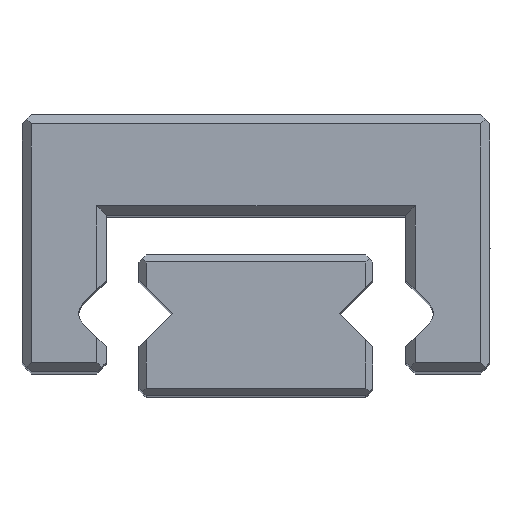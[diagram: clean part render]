
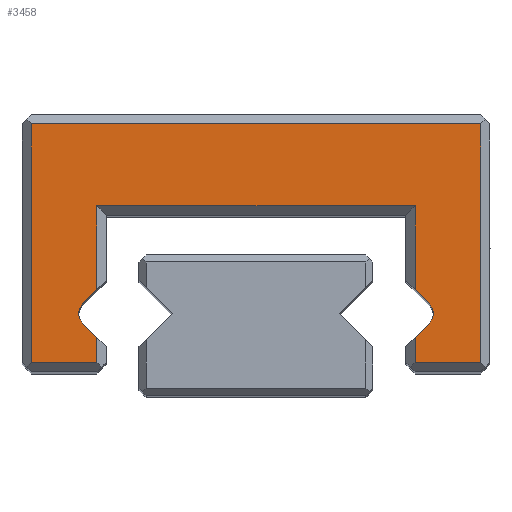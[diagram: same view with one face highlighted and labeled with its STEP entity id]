
A CAD part, top view. The second image highlights one B-rep face of the part: STEP entity #3458.
In plain terms, the highlighted planar face has unit normal (0, 0, 1).
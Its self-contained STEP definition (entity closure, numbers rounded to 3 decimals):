
#604 = VECTOR ( 'NONE', #1005, 1000. ) ;
#605 = VECTOR ( 'NONE', #1008, 1000. ) ;
#606 = VECTOR ( 'NONE', #1011, 1000. ) ;
#607 = VECTOR ( 'NONE', #1014, 1000. ) ;
#608 = VECTOR ( 'NONE', #1017, 1000. ) ;
#609 = VECTOR ( 'NONE', #1020, 1000. ) ;
#610 = VECTOR ( 'NONE', #1023, 1000. ) ;
#611 = VECTOR ( 'NONE', #1026, 1000. ) ;
#612 = VECTOR ( 'NONE', #1029, 1000. ) ;
#613 = VECTOR ( 'NONE', #1032, 1000. ) ;
#1003 = LINE ( 'NONE', #1004, #604 ) ;
#1004 = CARTESIAN_POINT ( 'NONE',  ( 3.4, 0.2, 12.5 ) ) ;
#1005 = DIRECTION ( 'NONE',  ( 0., -1., 0. ) ) ;
#1006 = LINE ( 'NONE', #1007, #605 ) ;
#1007 = CARTESIAN_POINT ( 'NONE',  ( 4.8, 0.2, 12.5 ) ) ;
#1008 = DIRECTION ( 'NONE',  ( 1., 0., 0. ) ) ;
#1009 = LINE ( 'NONE', #1010, #606 ) ;
#1010 = CARTESIAN_POINT ( 'NONE',  ( 4.8, 5.3, 12.5 ) ) ;
#1011 = DIRECTION ( 'NONE',  ( 0., 1., 0. ) ) ;
#1012 = LINE ( 'NONE', #1013, #607 ) ;
#1013 = CARTESIAN_POINT ( 'NONE',  ( -4.8, 5.3, 12.5 ) ) ;
#1014 = DIRECTION ( 'NONE',  ( -1., 0., 0. ) ) ;
#1015 = LINE ( 'NONE', #1016, #608 ) ;
#1016 = CARTESIAN_POINT ( 'NONE',  ( -4.8, 0.2, 12.5 ) ) ;
#1017 = DIRECTION ( 'NONE',  ( 0., -1., 0. ) ) ;
#1018 = LINE ( 'NONE', #1019, #609 ) ;
#1019 = CARTESIAN_POINT ( 'NONE',  ( -3.4, 0.2, 12.5 ) ) ;
#1020 = DIRECTION ( 'NONE',  ( 1., 0., 0. ) ) ;
#1021 = LINE ( 'NONE', #1022, #610 ) ;
#1022 = CARTESIAN_POINT ( 'NONE',  ( -3.4, 0.54, 12.5 ) ) ;
#1023 = DIRECTION ( 'NONE',  ( 0., 1., 0. ) ) ;
#1024 = LINE ( 'NONE', #1025, #611 ) ;
#1025 = CARTESIAN_POINT ( 'NONE',  ( -3.4, 3.35, 12.5 ) ) ;
#1026 = DIRECTION ( 'NONE',  ( 0., 1., 0. ) ) ;
#1027 = LINE ( 'NONE', #1028, #612 ) ;
#1028 = CARTESIAN_POINT ( 'NONE',  ( 3.2, 3.55, 12.5 ) ) ;
#1029 = DIRECTION ( 'NONE',  ( 1., 0., 0. ) ) ;
#1030 = LINE ( 'NONE', #1031, #613 ) ;
#1031 = CARTESIAN_POINT ( 'NONE',  ( 3.4, 1.96, 12.5 ) ) ;
#1032 = DIRECTION ( 'NONE',  ( 0., -1., 0. ) ) ;
#3458 = ADVANCED_FACE ( 'NONE', ( #9036 ), #9030, .T. ) ;
#3499 = EDGE_CURVE ( 'NONE', #11159, #11230, #3551, .T. ) ;
#3501 = EDGE_CURVE ( 'NONE', #11307, #11159, #9240, .T. ) ;
#3550 = VECTOR ( 'NONE', #9248, 1000. ) ;
#3551 = CIRCLE ( 'NONE', #3552, 0.3 ) ;
#3552 = AXIS2_PLACEMENT_3D ( 'NONE', #9242, #9243, #9244 ) ;
#3612 = CIRCLE ( 'NONE', #3614, 0.3 ) ;
#3614 = AXIS2_PLACEMENT_3D ( 'NONE', #4851, #4852, #4853 ) ;
#4157 = CIRCLE ( 'NONE', #4161, 0.3 ) ;
#4161 = AXIS2_PLACEMENT_3D ( 'NONE', #12275, #12276, #12277 ) ;
#4166 = VECTOR ( 'NONE', #12260, 1000. ) ;
#4167 = VECTOR ( 'NONE', #12288, 1000. ) ;
#4178 = VECTOR ( 'NONE', #12316, 1000. ) ;
#4653 = AXIS2_PLACEMENT_3D ( 'NONE', #9032, #9038, #9039 ) ;
#4851 = CARTESIAN_POINT ( 'NONE',  ( -3.49, 1.25, 12.5 ) ) ;
#4852 = DIRECTION ( 'NONE',  ( 0., 0., -1. ) ) ;
#4853 = DIRECTION ( 'NONE',  ( 1., 0., 0. ) ) ;
#5800 = EDGE_LOOP ( 'NONE', ( #7242, #7243, #7244, #7245, #7246, #7247, #7248, #7249, #7250, #7251, #7252, #7253, #7254, #7255, #7256, #7257, #7258 ) ) ;
#7242 = ORIENTED_EDGE ( 'NONE', *, *, #11445, .T. ) ;
#7243 = ORIENTED_EDGE ( 'NONE', *, *, #11591, .T. ) ;
#7244 = ORIENTED_EDGE ( 'NONE', *, *, #11592, .T. ) ;
#7245 = ORIENTED_EDGE ( 'NONE', *, *, #11593, .T. ) ;
#7246 = ORIENTED_EDGE ( 'NONE', *, *, #11594, .T. ) ;
#7247 = ORIENTED_EDGE ( 'NONE', *, *, #11595, .T. ) ;
#7248 = ORIENTED_EDGE ( 'NONE', *, *, #11596, .T. ) ;
#7249 = ORIENTED_EDGE ( 'NONE', *, *, #11597, .T. ) ;
#7250 = ORIENTED_EDGE ( 'NONE', *, *, #3501, .T. ) ;
#7251 = ORIENTED_EDGE ( 'NONE', *, *, #3499, .T. ) ;
#7252 = ORIENTED_EDGE ( 'NONE', *, *, #8296, .T. ) ;
#7253 = ORIENTED_EDGE ( 'NONE', *, *, #11463, .T. ) ;
#7254 = ORIENTED_EDGE ( 'NONE', *, *, #11598, .T. ) ;
#7255 = ORIENTED_EDGE ( 'NONE', *, *, #11599, .T. ) ;
#7256 = ORIENTED_EDGE ( 'NONE', *, *, #11600, .T. ) ;
#7257 = ORIENTED_EDGE ( 'NONE', *, *, #11454, .T. ) ;
#7258 = ORIENTED_EDGE ( 'NONE', *, *, #11450, .T. ) ;
#8296 = EDGE_CURVE ( 'NONE', #11230, #11245, #3612, .T. ) ;
#9030 = PLANE ( 'NONE',  #4653 ) ;
#9032 = CARTESIAN_POINT ( 'NONE',  ( -3.49, 1.25, 12.5 ) ) ;
#9036 = FACE_OUTER_BOUND ( 'NONE', #5800, .T. ) ;
#9038 = DIRECTION ( 'NONE',  ( 0., 0., 1. ) ) ;
#9039 = DIRECTION ( 'NONE',  ( 1., 0., 0. ) ) ;
#9240 = LINE ( 'NONE', #9247, #3550 ) ;
#9242 = CARTESIAN_POINT ( 'NONE',  ( -3.49, 1.25, 12.5 ) ) ;
#9243 = DIRECTION ( 'NONE',  ( 0., 0., -1. ) ) ;
#9244 = DIRECTION ( 'NONE',  ( 1., 0., 0. ) ) ;
#9247 = CARTESIAN_POINT ( 'NONE',  ( -3.2, 0.54, 12.5 ) ) ;
#9248 = DIRECTION ( 'NONE',  ( -0.71, 0.704, 0. ) ) ;
#11159 = VERTEX_POINT ( 'NONE', #11971 ) ;
#11203 = VERTEX_POINT ( 'NONE', #12015 ) ;
#11230 = VERTEX_POINT ( 'NONE', #12042 ) ;
#11245 = VERTEX_POINT ( 'NONE', #12057 ) ;
#11274 = VERTEX_POINT ( 'NONE', #12086 ) ;
#11290 = VERTEX_POINT ( 'NONE', #12102 ) ;
#11291 = VERTEX_POINT ( 'NONE', #12103 ) ;
#11307 = VERTEX_POINT ( 'NONE', #12119 ) ;
#11352 = VERTEX_POINT ( 'NONE', #12164 ) ;
#11375 = VERTEX_POINT ( 'NONE', #12187 ) ;
#11386 = VERTEX_POINT ( 'NONE', #12198 ) ;
#11387 = VERTEX_POINT ( 'NONE', #12199 ) ;
#11388 = VERTEX_POINT ( 'NONE', #12200 ) ;
#11389 = VERTEX_POINT ( 'NONE', #12201 ) ;
#11391 = VERTEX_POINT ( 'NONE', #12203 ) ;
#11393 = VERTEX_POINT ( 'NONE', #12205 ) ;
#11398 = VERTEX_POINT ( 'NONE', #12210 ) ;
#11445 = EDGE_CURVE ( 'NONE', #11290, #11375, #12258, .T. ) ;
#11450 = EDGE_CURVE ( 'NONE', #11274, #11290, #4157, .T. ) ;
#11454 = EDGE_CURVE ( 'NONE', #11291, #11274, #12279, .T. ) ;
#11463 = EDGE_CURVE ( 'NONE', #11245, #11203, #12313, .T. ) ;
#11591 = EDGE_CURVE ( 'NONE', #11375, #11398, #1003, .T. ) ;
#11592 = EDGE_CURVE ( 'NONE', #11398, #11387, #1006, .T. ) ;
#11593 = EDGE_CURVE ( 'NONE', #11387, #11386, #1009, .T. ) ;
#11594 = EDGE_CURVE ( 'NONE', #11386, #11389, #1012, .T. ) ;
#11595 = EDGE_CURVE ( 'NONE', #11389, #11388, #1015, .T. ) ;
#11596 = EDGE_CURVE ( 'NONE', #11388, #11391, #1018, .T. ) ;
#11597 = EDGE_CURVE ( 'NONE', #11391, #11307, #1021, .T. ) ;
#11598 = EDGE_CURVE ( 'NONE', #11203, #11352, #1024, .T. ) ;
#11599 = EDGE_CURVE ( 'NONE', #11352, #11393, #1027, .T. ) ;
#11600 = EDGE_CURVE ( 'NONE', #11393, #11291, #1030, .T. ) ;
#11971 = CARTESIAN_POINT ( 'NONE',  ( -3.701, 1.037, 12.5 ) ) ;
#12015 = CARTESIAN_POINT ( 'NONE',  ( -3.4, 1.762, 12.5 ) ) ;
#12042 = CARTESIAN_POINT ( 'NONE',  ( -3.79, 1.25, 12.5 ) ) ;
#12057 = CARTESIAN_POINT ( 'NONE',  ( -3.701, 1.463, 12.5 ) ) ;
#12086 = CARTESIAN_POINT ( 'NONE',  ( 3.701, 1.463, 12.5 ) ) ;
#12102 = CARTESIAN_POINT ( 'NONE',  ( 3.701, 1.037, 12.5 ) ) ;
#12103 = CARTESIAN_POINT ( 'NONE',  ( 3.4, 1.762, 12.5 ) ) ;
#12119 = CARTESIAN_POINT ( 'NONE',  ( -3.4, 0.738, 12.5 ) ) ;
#12164 = CARTESIAN_POINT ( 'NONE',  ( -3.4, 3.55, 12.5 ) ) ;
#12187 = CARTESIAN_POINT ( 'NONE',  ( 3.4, 0.738, 12.5 ) ) ;
#12198 = CARTESIAN_POINT ( 'NONE',  ( 4.8, 5.3, 12.5 ) ) ;
#12199 = CARTESIAN_POINT ( 'NONE',  ( 4.8, 0.2, 12.5 ) ) ;
#12200 = CARTESIAN_POINT ( 'NONE',  ( -4.8, 0.2, 12.5 ) ) ;
#12201 = CARTESIAN_POINT ( 'NONE',  ( -4.8, 5.3, 12.5 ) ) ;
#12203 = CARTESIAN_POINT ( 'NONE',  ( -3.4, 0.2, 12.5 ) ) ;
#12205 = CARTESIAN_POINT ( 'NONE',  ( 3.4, 3.55, 12.5 ) ) ;
#12210 = CARTESIAN_POINT ( 'NONE',  ( 3.4, 0.2, 12.5 ) ) ;
#12258 = LINE ( 'NONE', #12259, #4166 ) ;
#12259 = CARTESIAN_POINT ( 'NONE',  ( 3.2, 0.54, 12.5 ) ) ;
#12260 = DIRECTION ( 'NONE',  ( -0.71, -0.704, 0. ) ) ;
#12275 = CARTESIAN_POINT ( 'NONE',  ( 3.49, 1.25, 12.5 ) ) ;
#12276 = DIRECTION ( 'NONE',  ( 0., 0., -1. ) ) ;
#12277 = DIRECTION ( 'NONE',  ( -1., 0., 0. ) ) ;
#12279 = LINE ( 'NONE', #12287, #4167 ) ;
#12287 = CARTESIAN_POINT ( 'NONE',  ( 3.701, 1.463, 12.5 ) ) ;
#12288 = DIRECTION ( 'NONE',  ( 0.71, -0.704, 0. ) ) ;
#12313 = LINE ( 'NONE', #12315, #4178 ) ;
#12315 = CARTESIAN_POINT ( 'NONE',  ( -3.701, 1.463, 12.5 ) ) ;
#12316 = DIRECTION ( 'NONE',  ( 0.71, 0.704, 0. ) ) ;
